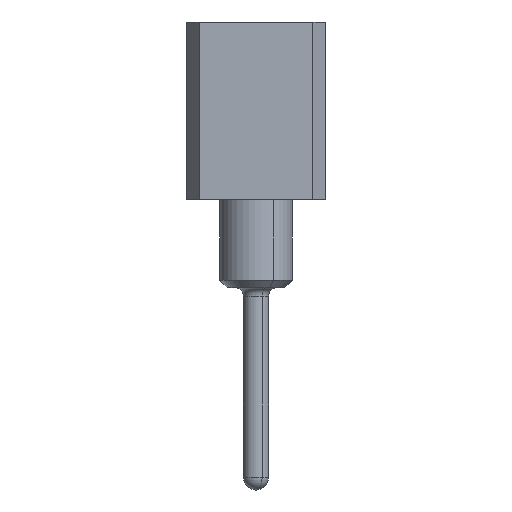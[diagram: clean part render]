
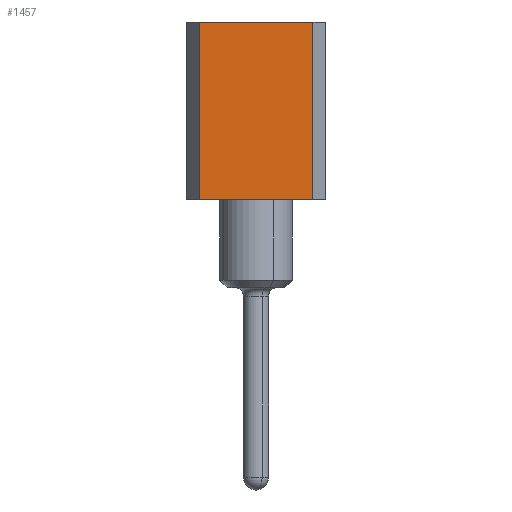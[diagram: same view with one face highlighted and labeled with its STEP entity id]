
A CAD part, left-side view. The second image highlights one B-rep face of the part: STEP entity #1457.
In plain terms, the highlighted planar face has unit normal (-1, 0, 0).
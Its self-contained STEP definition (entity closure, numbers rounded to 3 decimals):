
#488 = VECTOR ( 'NONE', #5914, 1000. ) ;
#576 = EDGE_CURVE ( 'NONE', #8608, #3267, #8615, .T. ) ;
#1313 = CARTESIAN_POINT ( 'NONE',  ( -4., 0., 2.8 ) ) ;
#1457 = ADVANCED_FACE ( 'NONE', ( #1887 ), #8727, .F. ) ;
#1510 = EDGE_CURVE ( 'NONE', #4297, #5269, #2681, .T. ) ;
#1844 = DIRECTION ( 'NONE',  ( 0., 1., 0. ) ) ;
#1887 = FACE_OUTER_BOUND ( 'NONE', #5832, .T. ) ;
#2634 = DIRECTION ( 'NONE',  ( 1., 0., 0. ) ) ;
#2681 = LINE ( 'NONE', #6153, #7149 ) ;
#2695 = ORIENTED_EDGE ( 'NONE', *, *, #4181, .F. ) ;
#3228 = ORIENTED_EDGE ( 'NONE', *, *, #1510, .F. ) ;
#3267 = VERTEX_POINT ( 'NONE', #8418 ) ;
#3386 = VECTOR ( 'NONE', #7216, 1000. ) ;
#4181 = EDGE_CURVE ( 'NONE', #8608, #4297, #5688, .T. ) ;
#4297 = VERTEX_POINT ( 'NONE', #8747 ) ;
#4344 = DIRECTION ( 'NONE',  ( 0., 1., 0. ) ) ;
#4711 = AXIS2_PLACEMENT_3D ( 'NONE', #4719, #2634, #1844 ) ;
#4719 = CARTESIAN_POINT ( 'NONE',  ( -4., 0., 0. ) ) ;
#5269 = VERTEX_POINT ( 'NONE', #6865 ) ;
#5435 = DIRECTION ( 'NONE',  ( 0., 0., 1. ) ) ;
#5553 = ORIENTED_EDGE ( 'NONE', *, *, #7859, .F. ) ;
#5578 = VECTOR ( 'NONE', #4344, 1000. ) ;
#5688 = LINE ( 'NONE', #8430, #5578 ) ;
#5832 = EDGE_LOOP ( 'NONE', ( #2695, #7737, #5553, #3228 ) ) ;
#5914 = DIRECTION ( 'NONE',  ( 0., -1., 0. ) ) ;
#5933 = CARTESIAN_POINT ( 'NONE',  ( -4., -1.9, 0. ) ) ;
#6153 = CARTESIAN_POINT ( 'NONE',  ( -4., -0.1, -4.6 ) ) ;
#6865 = CARTESIAN_POINT ( 'NONE',  ( -4., -0.1, 2.8 ) ) ;
#7149 = VECTOR ( 'NONE', #5435, 1000. ) ;
#7216 = DIRECTION ( 'NONE',  ( 0., 0., 1. ) ) ;
#7482 = LINE ( 'NONE', #1313, #488 ) ;
#7737 = ORIENTED_EDGE ( 'NONE', *, *, #576, .T. ) ;
#7859 = EDGE_CURVE ( 'NONE', #5269, #3267, #7482, .T. ) ;
#8418 = CARTESIAN_POINT ( 'NONE',  ( -4., -1.9, 2.8 ) ) ;
#8430 = CARTESIAN_POINT ( 'NONE',  ( -4., 0., 0. ) ) ;
#8608 = VERTEX_POINT ( 'NONE', #5933 ) ;
#8615 = LINE ( 'NONE', #8705, #3386 ) ;
#8705 = CARTESIAN_POINT ( 'NONE',  ( -4., -1.9, -4.6 ) ) ;
#8727 = PLANE ( 'NONE',  #4711 ) ;
#8747 = CARTESIAN_POINT ( 'NONE',  ( -4., -0.1, 0. ) ) ;
